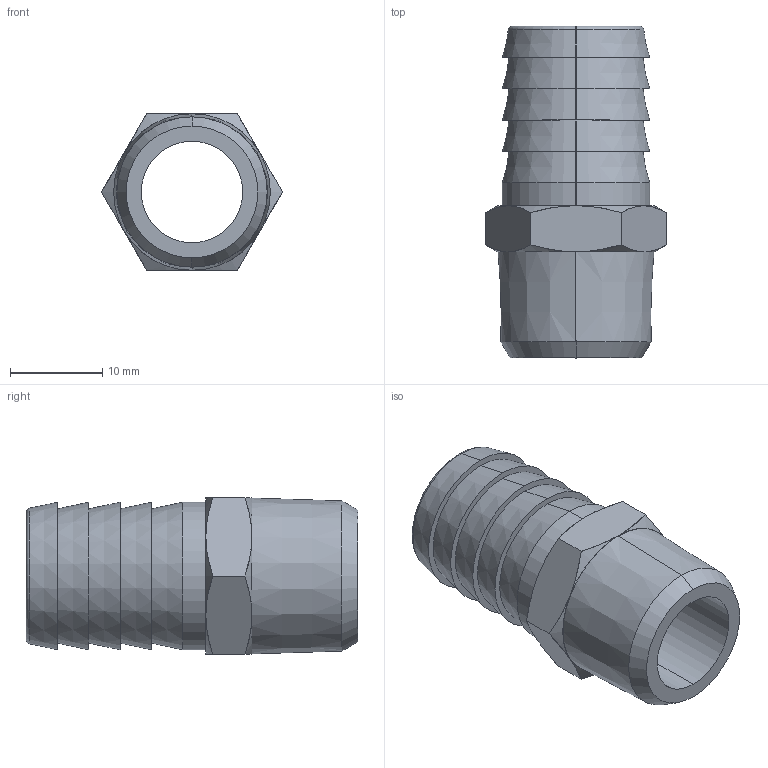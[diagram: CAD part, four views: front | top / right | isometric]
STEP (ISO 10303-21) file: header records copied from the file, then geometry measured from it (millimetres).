
FILE_DESCRIPTION(/* description */ (''),/* implementation_level */ '2;1');
FILE_NAME(/* name */ 'K:\praktykant1\Tomasz Zadworny\Aignep\uzupelnienie\3040 16 38\3040 16 38.stp',/* time_stamp */ '2014-07-22T09:59:35+02:00',/* author */ ('Praktykant1'),/* organization */ (''),/* preprocessor_version */ 'ST-DEVELOPER v15.6',/* originating_system */ 'Autodesk Inventor 2015',/* authorisation */ '');
FILE_SCHEMA (('AUTOMOTIVE_DESIGN { 1 0 10303 214 3 1 1 }'));
Length unit declared in the file: millimetre
Products named in the file (1): 3040 16 38
Bounding box: 19.63 x 36 x 17 mm (x, y, z)
Surface area: 3425.4 mm2 (no closed solid volume)
Topology: 0 solids, 46 shells, 46 faces, 168 edges, 168 vertices
Faces by surface type: cone 26, plane 14, cylinder 4, torus 2
Entity records: 2394 total; most frequent: CARTESIAN_POINT 899, DIRECTION 286, VERTEX_POINT 168, EDGE_CURVE 168, ORIENTED_EDGE 168, AXIS2_PLACEMENT_3D 119, CIRCLE 72, EDGE_LOOP 54
